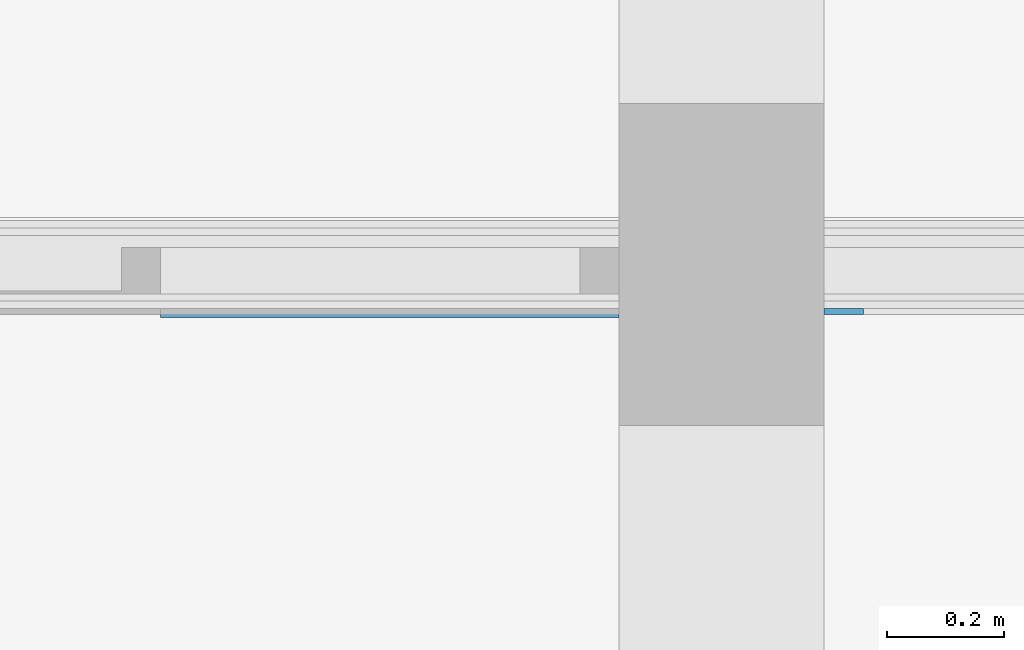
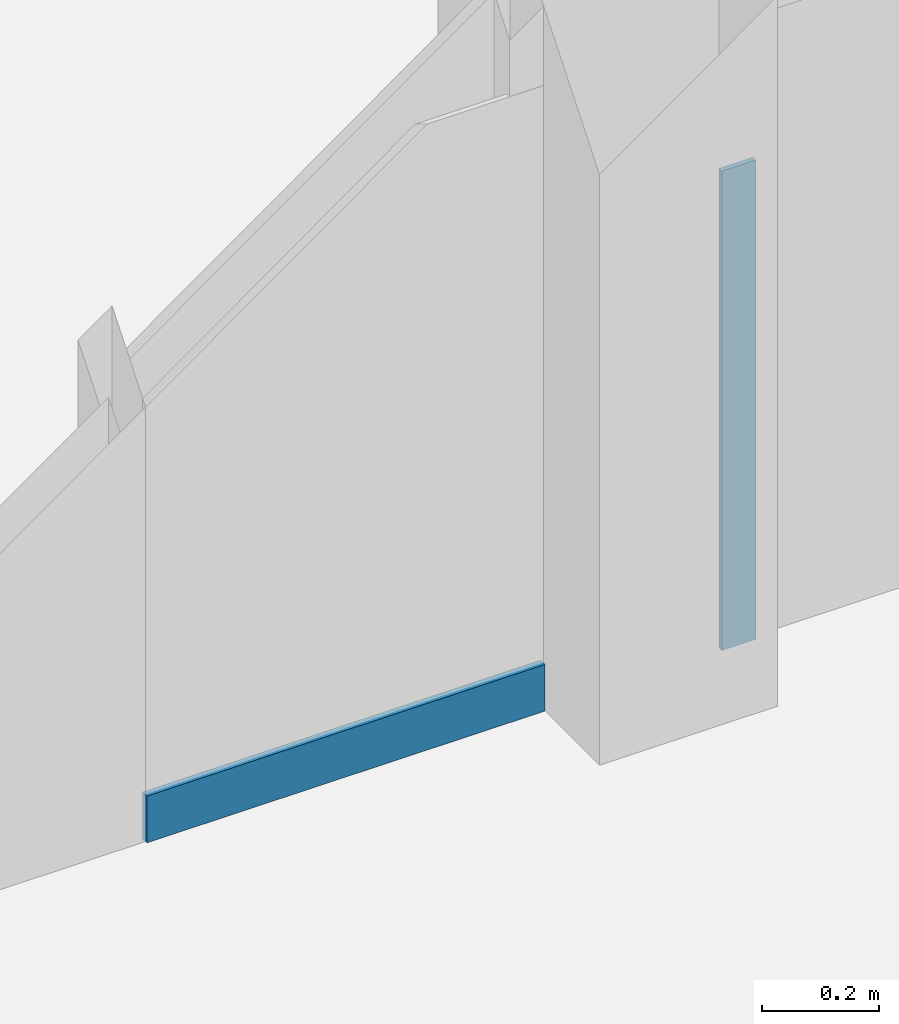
# One storey, part 33 of 94: 2 walls.
"""IFC2X3 building model written with IfcOpenShell, lengths in millimetres."""

from ifc_helpers import new_model, entity, si_unit, converted_unit, derived_unit, money_unit, direction, frame, origin_with_axes, place, context, subcontext, project, spatial, faceted_brep, material, type_object, element, save


model = new_model("IFC2X3")

# Units and contexts
model_context = context("Model", 3, precision=0.01, world=origin_with_axes(), true_north=direction((0.0, 1.0)))
body_context = subcontext(model_context, "Body", "Model", "MODEL_VIEW")
ifc_project = project(units=[si_unit("LENGTHUNIT", "METRE", prefix="MILLI"), si_unit("AREAUNIT", "SQUARE_METRE"), si_unit("VOLUMEUNIT", "CUBIC_METRE"), converted_unit("PLANEANGLEUNIT", "DEGREE", entity("IfcPlaneAngleMeasure", 0.0174532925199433), si_unit("PLANEANGLEUNIT", "RADIAN"), dimensions=[0, 0, 0, 0, 0, 0, 0]), money_unit("EUR"), converted_unit("TIMEUNIT", "Year", entity("IfcTimeMeasure", 31557600.0), si_unit("TIMEUNIT", "SECOND"), dimensions=[0, 0, 1, 0, 0, 0, 0]), si_unit("MASSUNIT", "GRAM", prefix="KILO"), si_unit("THERMODYNAMICTEMPERATUREUNIT", "DEGREE_CELSIUS"), si_unit("LUMINOUSINTENSITYUNIT", "LUMEN"), si_unit("ENERGYUNIT", "JOULE", prefix="MEGA"), derived_unit("THERMALCONDUCTANCEUNIT", [(si_unit("POWERUNIT", "WATT"), 1), (si_unit("LENGTHUNIT", "METRE"), -1), (si_unit("THERMODYNAMICTEMPERATUREUNIT", "KELVIN"), -1)]), derived_unit("SPECIFICHEATCAPACITYUNIT", [(si_unit("ENERGYUNIT", "JOULE"), 1), (si_unit("MASSUNIT", "GRAM", prefix="KILO"), -1), (si_unit("THERMODYNAMICTEMPERATUREUNIT", "KELVIN"), -1)]), derived_unit("MASSDENSITYUNIT", [(si_unit("MASSUNIT", "GRAM", prefix="KILO"), 1), (si_unit("VOLUMEUNIT", "CUBIC_METRE"), -1)])], contexts=[model_context])

# Site, building, storey
site_placement = place(None, origin_with_axes())
site = spatial("IfcSite", under=ifc_project, at=site_placement, Name="<site naam>", CompositionType="ELEMENT")
building_placement = place(site_placement, origin_with_axes())
building = spatial("IfcBuilding", under=site, at=building_placement, Name="<Naam gebouw>", CompositionType="ELEMENT")
storey_placement = place(building_placement, frame((0.0, 0.0, 4250.0), z_axis=(0.0, 0.0, 1.0), x_axis=(1.0, 0.0, 0.0)))
storey = spatial("IfcBuildingStorey", under=building, at=storey_placement, Name="01 1e verdieping", CompositionType="ELEMENT", Elevation=4250.0)

# Walls
ifc_material = material(Name="ALG - BUITENAFWERKING")
wall_type_1 = type_object("IfcWallType", Name="ALG - BUITENAFWERKING 10", PredefinedType="NOTDEFINED")
wall_1_placement = place(storey_placement, frame((44175.00010281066, 11925.00000000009, 0.0), z_axis=(0.0, 0.0, 1.0), x_axis=(1.0, 0.0, 0.0)))
element("IfcWall", 1, at=wall_1_placement, inside=storey, type_object=wall_type_1, material=ifc_material, Name="42_Binnenwand_ALG", context=body_context, shape_type="Brep", body=[
    faceted_brep([(67.00000000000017, -9.999999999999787, 998.9999999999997), (67.00000000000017, -9.999999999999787, 3.000000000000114), (67.00000000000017, 0.0, 3.000000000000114), (67.00000000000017, 0.0, 998.9999999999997), (0.0, -9.999999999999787, 998.9999999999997), (-0.0001028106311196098, -9.999999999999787, 3.000000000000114), (-0.0001028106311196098, 0.0, 3.000000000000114), (0.0, 0.0, 998.9999999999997)], [[[0, 1, 2, 3]], [[4, 5, 1, 0]], [[5, 6, 2, 1]], [[3, 2, 6, 7]], [[7, 4, 0, 3]], [[7, 6, 5, 4]]]),
])
wall_type_2 = type_object("IfcWallType", Name="ALG - BUITENAFWERKING 15", PredefinedType="NOTDEFINED")
wall_2_placement = place(storey_placement, frame((43042.26997527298, 11925.00000000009, 0.0), z_axis=(0.0, 0.0, 1.0), x_axis=(1.0, 0.0, 0.0)))
element("IfcWall", 2, at=wall_2_placement, inside=storey, type_object=wall_type_2, material=ifc_material, Name="42_Binnenwand_ALG", context=body_context, shape_type="Brep", body=[
    faceted_brep([(782.6640309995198, -14.99999999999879, 3.000000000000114), (782.6640309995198, -2.908502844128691, 3.000000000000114), (782.6640309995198, -2.908502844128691, 0.0), (782.6640309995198, 0.0, 0.0), (782.6640309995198, 0.0, 99.99999999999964), (782.6640309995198, -14.99999999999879, 99.99999999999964), (0.0, -2.908502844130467, 3.000000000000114), (0.0, -15.00000000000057, 3.000000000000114), (0.0, -2.908502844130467, 0.0), (0.0, 0.0, 0.0), (0.0, 0.0, 99.99999999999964), (0.0, -15.00000000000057, 99.99999999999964)], [[[0, 1, 2, 3, 4, 5]], [[6, 1, 0, 7]], [[8, 2, 1, 6]], [[3, 2, 8, 9]], [[9, 10, 4, 3]], [[10, 11, 5, 4]], [[11, 7, 0, 5]], [[8, 6, 7, 11, 10, 9]]]),
])

save(model, "model.ifc")
